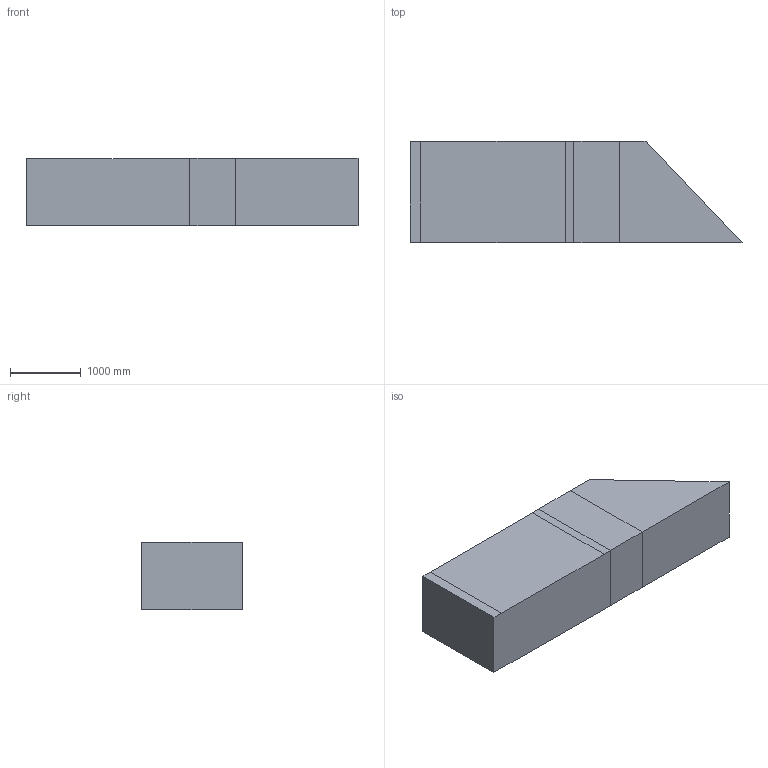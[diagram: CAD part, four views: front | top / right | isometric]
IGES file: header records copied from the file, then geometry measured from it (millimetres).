
Start section:  * IGES Dump file written on 24 Mar 2020  *  * IGES Dump file:  * /panfs/pan-phx-3p-005.panfs.cs.boeing.com/p023/phl_aero/Users/Narduc  * ci/02_HoverAnalysis/HVAB/Tunnel/NFAC_cf.igs  *  * Created from part:  * EXP1  *  * Contained in model:  * /panfs/pan-phx-3p-005.panfs.cs.boeing.com/p023/phl_aero/Users/Narduc  * ci/02_HoverAnalysis/HVAB/Tunnel/NFAC  *
Global section: file name: filename_too_long.igs; native system: CADfix; preprocessor:   12/37163; date: 20200324.063113; units: millimetre
Bounding box: 4679 x 1431 x 954 mm (x, y, z)
Surface area: 22257377.2 mm2 (no closed solid volume)
Topology: 0 solids, 0 shells, 16 faces, 68 edges, 68 vertices
Faces by surface type: bspline 16
